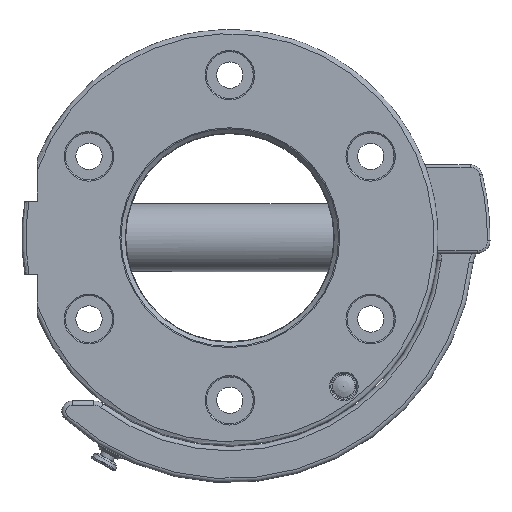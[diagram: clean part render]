
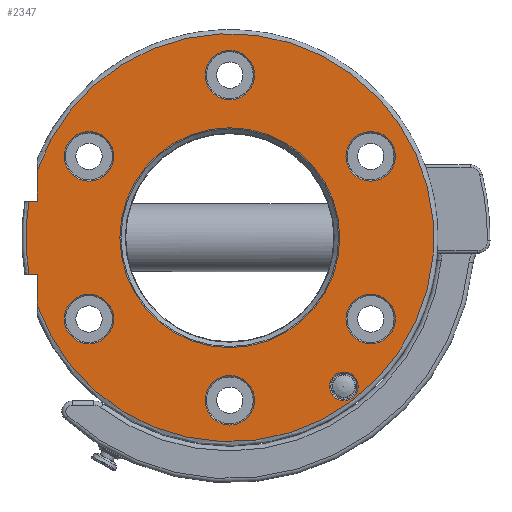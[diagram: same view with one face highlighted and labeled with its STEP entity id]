
A CAD part, front view. The second image highlights one B-rep face of the part: STEP entity #2347.
In plain terms, the highlighted planar face has unit normal (0, -1, 0).
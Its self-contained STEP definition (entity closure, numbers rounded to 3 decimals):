
#116=FACE_BOUND('',#377,.T.);
#117=FACE_BOUND('',#378,.T.);
#118=FACE_BOUND('',#379,.T.);
#119=FACE_BOUND('',#380,.T.);
#120=FACE_BOUND('',#381,.T.);
#121=FACE_BOUND('',#382,.T.);
#122=FACE_BOUND('',#383,.T.);
#123=FACE_BOUND('',#384,.T.);
#150=PLANE('',#2635);
#233=FACE_OUTER_BOUND('',#376,.T.);
#376=EDGE_LOOP('',(#1800,#1801,#1802,#1803,#1804,#1805));
#377=EDGE_LOOP('',(#1806));
#378=EDGE_LOOP('',(#1807));
#379=EDGE_LOOP('',(#1808));
#380=EDGE_LOOP('',(#1809,#1810));
#381=EDGE_LOOP('',(#1811));
#382=EDGE_LOOP('',(#1812));
#383=EDGE_LOOP('',(#1813));
#384=EDGE_LOOP('',(#1814));
#503=LINE('',#4203,#601);
#504=LINE('',#4207,#602);
#505=LINE('',#4209,#603);
#506=LINE('',#4212,#604);
#601=VECTOR('',#3241,10.);
#602=VECTOR('',#3244,10.);
#603=VECTOR('',#3245,10.);
#604=VECTOR('',#3248,10.);
#783=CIRCLE('',#2633,9.5);
#785=CIRCLE('',#2636,78.4);
#786=CIRCLE('',#2637,78.4);
#787=CIRCLE('',#2638,9.5);
#788=CIRCLE('',#2639,9.5);
#789=CIRCLE('',#2640,9.5);
#790=CIRCLE('',#2641,42.249);
#791=CIRCLE('',#2642,42.249);
#792=CIRCLE('',#2643,5.5);
#793=CIRCLE('',#2644,9.5);
#794=CIRCLE('',#2645,9.5);
#1006=VERTEX_POINT('',#4196);
#1007=VERTEX_POINT('',#4201);
#1008=VERTEX_POINT('',#4202);
#1009=VERTEX_POINT('',#4204);
#1010=VERTEX_POINT('',#4206);
#1011=VERTEX_POINT('',#4208);
#1012=VERTEX_POINT('',#4210);
#1013=VERTEX_POINT('',#4213);
#1014=VERTEX_POINT('',#4215);
#1015=VERTEX_POINT('',#4217);
#1016=VERTEX_POINT('',#4219);
#1017=VERTEX_POINT('',#4220);
#1018=VERTEX_POINT('',#4223);
#1019=VERTEX_POINT('',#4225);
#1020=VERTEX_POINT('',#4227);
#1295=EDGE_CURVE('',#1006,#1006,#783,.T.);
#1297=EDGE_CURVE('',#1007,#1008,#503,.T.);
#1298=EDGE_CURVE('',#1009,#1008,#785,.T.);
#1299=EDGE_CURVE('',#1009,#1010,#504,.T.);
#1300=EDGE_CURVE('',#1010,#1011,#505,.T.);
#1301=EDGE_CURVE('',#1012,#1011,#786,.T.);
#1302=EDGE_CURVE('',#1012,#1007,#506,.T.);
#1303=EDGE_CURVE('',#1013,#1013,#787,.T.);
#1304=EDGE_CURVE('',#1014,#1014,#788,.T.);
#1305=EDGE_CURVE('',#1015,#1015,#789,.T.);
#1306=EDGE_CURVE('',#1016,#1017,#790,.T.);
#1307=EDGE_CURVE('',#1017,#1016,#791,.T.);
#1308=EDGE_CURVE('',#1018,#1018,#792,.T.);
#1309=EDGE_CURVE('',#1019,#1019,#793,.T.);
#1310=EDGE_CURVE('',#1020,#1020,#794,.T.);
#1800=ORIENTED_EDGE('',*,*,#1297,.T.);
#1801=ORIENTED_EDGE('',*,*,#1298,.F.);
#1802=ORIENTED_EDGE('',*,*,#1299,.T.);
#1803=ORIENTED_EDGE('',*,*,#1300,.T.);
#1804=ORIENTED_EDGE('',*,*,#1301,.F.);
#1805=ORIENTED_EDGE('',*,*,#1302,.T.);
#1806=ORIENTED_EDGE('',*,*,#1303,.F.);
#1807=ORIENTED_EDGE('',*,*,#1304,.F.);
#1808=ORIENTED_EDGE('',*,*,#1305,.F.);
#1809=ORIENTED_EDGE('',*,*,#1306,.F.);
#1810=ORIENTED_EDGE('',*,*,#1307,.F.);
#1811=ORIENTED_EDGE('',*,*,#1308,.F.);
#1812=ORIENTED_EDGE('',*,*,#1309,.F.);
#1813=ORIENTED_EDGE('',*,*,#1310,.F.);
#1814=ORIENTED_EDGE('',*,*,#1295,.F.);
#2347=ADVANCED_FACE('',(#233,#116,#117,#118,#119,#120,#121,#122,#123),#150,
 .T.);
#2633=AXIS2_PLACEMENT_3D('',#4198,#3235,#3236);
#2635=AXIS2_PLACEMENT_3D('',#4200,#3239,#3240);
#2636=AXIS2_PLACEMENT_3D('',#4205,#3242,#3243);
#2637=AXIS2_PLACEMENT_3D('',#4211,#3246,#3247);
#2638=AXIS2_PLACEMENT_3D('',#4214,#3249,#3250);
#2639=AXIS2_PLACEMENT_3D('',#4216,#3251,#3252);
#2640=AXIS2_PLACEMENT_3D('',#4218,#3253,#3254);
#2641=AXIS2_PLACEMENT_3D('',#4221,#3255,#3256);
#2642=AXIS2_PLACEMENT_3D('',#4222,#3257,#3258);
#2643=AXIS2_PLACEMENT_3D('',#4224,#3259,#3260);
#2644=AXIS2_PLACEMENT_3D('',#4226,#3261,#3262);
#2645=AXIS2_PLACEMENT_3D('',#4228,#3263,#3264);
#3235=DIRECTION('center_axis',(0.,-1.,0.));
#3236=DIRECTION('ref_axis',(-1.,0.,0.));
#3239=DIRECTION('center_axis',(0.,-1.,0.));
#3240=DIRECTION('ref_axis',(0.,0.,-1.));
#3241=DIRECTION('',(0.,0.,-1.));
#3242=DIRECTION('center_axis',(0.,1.,0.));
#3243=DIRECTION('ref_axis',(1.,0.,0.));
#3244=DIRECTION('',(0.,0.,-1.));
#3245=DIRECTION('',(-1.,0.,0.));
#3246=DIRECTION('center_axis',(0.,1.,0.));
#3247=DIRECTION('ref_axis',(1.,0.,0.));
#3248=DIRECTION('',(1.,0.,0.));
#3249=DIRECTION('center_axis',(0.,-1.,0.));
#3250=DIRECTION('ref_axis',(-1.,0.,0.));
#3251=DIRECTION('center_axis',(0.,-1.,0.));
#3252=DIRECTION('ref_axis',(-1.,0.,0.));
#3253=DIRECTION('center_axis',(0.,-1.,0.));
#3254=DIRECTION('ref_axis',(-1.,0.,0.));
#3255=DIRECTION('center_axis',(0.,-1.,0.));
#3256=DIRECTION('ref_axis',(1.,0.,0.));
#3257=DIRECTION('center_axis',(0.,-1.,0.));
#3258=DIRECTION('ref_axis',(1.,0.,0.));
#3259=DIRECTION('center_axis',(0.,-1.,0.));
#3260=DIRECTION('ref_axis',(-1.,0.,0.));
#3261=DIRECTION('center_axis',(0.,-1.,0.));
#3262=DIRECTION('ref_axis',(-1.,0.,0.));
#3263=DIRECTION('center_axis',(0.,-1.,0.));
#3264=DIRECTION('ref_axis',(-1.,0.,0.));
#4196=CARTESIAN_POINT('',(76.237,-27.231,-31.25));
#4198=CARTESIAN_POINT('Origin',(66.737,-27.231,-31.25));
#4200=CARTESIAN_POINT('Origin',(-47.39,-27.231,0.));
#4201=CARTESIAN_POINT('',(-61.39,-27.231,-14.));
#4202=CARTESIAN_POINT('',(-61.39,-27.231,-25.895));
#4203=CARTESIAN_POINT('',(-61.39,-27.231,-7.));
#4204=CARTESIAN_POINT('',(-61.39,-27.231,25.895));
#4205=CARTESIAN_POINT('Origin',(12.61,-27.231,0.));
#4206=CARTESIAN_POINT('',(-61.39,-27.231,14.));
#4207=CARTESIAN_POINT('',(-61.39,-27.231,15.199));
#4208=CARTESIAN_POINT('',(-64.529,-27.231,14.));
#4209=CARTESIAN_POINT('',(-54.39,-27.231,14.));
#4210=CARTESIAN_POINT('',(-64.529,-27.231,-14.));
#4211=CARTESIAN_POINT('Origin',(12.61,-27.231,0.));
#4212=CARTESIAN_POINT('',(-56.772,-27.231,-14.));
#4213=CARTESIAN_POINT('',(76.237,-27.231,31.25));
#4214=CARTESIAN_POINT('Origin',(66.737,-27.231,31.25));
#4215=CARTESIAN_POINT('',(-32.016,-27.231,31.25));
#4216=CARTESIAN_POINT('Origin',(-41.516,-27.231,31.25));
#4217=CARTESIAN_POINT('',(-32.016,-27.231,-31.25));
#4218=CARTESIAN_POINT('Origin',(-41.516,-27.231,-31.25));
#4219=CARTESIAN_POINT('',(-29.638,-27.231,0.));
#4220=CARTESIAN_POINT('',(12.61,-27.231,42.249));
#4221=CARTESIAN_POINT('Origin',(12.61,-27.231,0.));
#4222=CARTESIAN_POINT('Origin',(12.61,-27.231,0.));
#4223=CARTESIAN_POINT('',(61.941,-27.231,-57.121));
#4224=CARTESIAN_POINT('Origin',(56.441,-27.231,-57.121));
#4225=CARTESIAN_POINT('',(22.11,-27.231,-62.5));
#4226=CARTESIAN_POINT('Origin',(12.61,-27.231,-62.5));
#4227=CARTESIAN_POINT('',(22.11,-27.231,62.5));
#4228=CARTESIAN_POINT('Origin',(12.61,-27.231,62.5));
